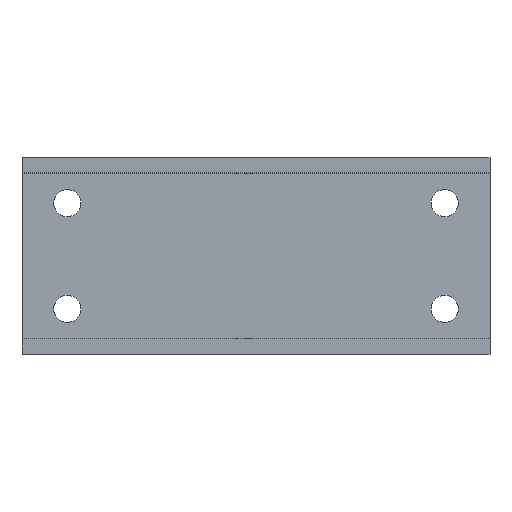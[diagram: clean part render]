
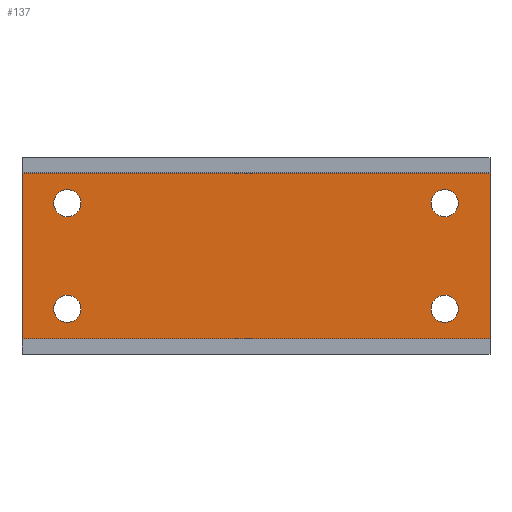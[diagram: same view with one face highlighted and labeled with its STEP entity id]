
A CAD part, top view. The second image highlights one B-rep face of the part: STEP entity #137.
In plain terms, the highlighted planar face has unit normal (0, 0, 1).
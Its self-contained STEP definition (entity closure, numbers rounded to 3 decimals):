
#21 = EDGE_CURVE('',#22,#24,#26,.T.);
#22 = VERTEX_POINT('',#23);
#23 = CARTESIAN_POINT('',(-31.,-11.,3.));
#24 = VERTEX_POINT('',#25);
#25 = CARTESIAN_POINT('',(-31.,11.,3.));
#26 = SURFACE_CURVE('',#27,(#31,#43),.PCURVE_S1.);
#27 = LINE('',#28,#29);
#28 = CARTESIAN_POINT('',(-31.,-13.,3.));
#29 = VECTOR('',#30,1.);
#30 = DIRECTION('',(0.,1.,0.));
#31 = PCURVE('',#32,#37);
#32 = PLANE('',#33);
#33 = AXIS2_PLACEMENT_3D('',#34,#35,#36);
#34 = CARTESIAN_POINT('',(-31.,-13.,0.));
#35 = DIRECTION('',(1.,0.,0.));
#36 = DIRECTION('',(0.,0.,1.));
#37 = DEFINITIONAL_REPRESENTATION('',(#38),#42);
#38 = LINE('',#39,#40);
#39 = CARTESIAN_POINT('',(3.,0.));
#40 = VECTOR('',#41,1.);
#41 = DIRECTION('',(0.,-1.));
#42 = ( GEOMETRIC_REPRESENTATION_CONTEXT(2) 
PARAMETRIC_REPRESENTATION_CONTEXT() REPRESENTATION_CONTEXT('2D SPACE',''
  ) );
#43 = PCURVE('',#44,#49);
#44 = PLANE('',#45);
#45 = AXIS2_PLACEMENT_3D('',#46,#47,#48);
#46 = CARTESIAN_POINT('',(-31.,-13.,3.));
#47 = DIRECTION('',(0.,0.,1.));
#48 = DIRECTION('',(1.,0.,0.));
#49 = DEFINITIONAL_REPRESENTATION('',(#50),#54);
#50 = LINE('',#51,#52);
#51 = CARTESIAN_POINT('',(0.,0.));
#52 = VECTOR('',#53,1.);
#53 = DIRECTION('',(0.,1.));
#54 = ( GEOMETRIC_REPRESENTATION_CONTEXT(2) 
PARAMETRIC_REPRESENTATION_CONTEXT() REPRESENTATION_CONTEXT('2D SPACE',''
  ) );
#137 = ADVANCED_FACE('',(#138,#223,#254,#285,#316),#44,.T.);
#138 = FACE_BOUND('',#139,.T.);
#139 = EDGE_LOOP('',(#140,#141,#169,#197));
#140 = ORIENTED_EDGE('',*,*,#21,.F.);
#141 = ORIENTED_EDGE('',*,*,#142,.T.);
#142 = EDGE_CURVE('',#22,#143,#145,.T.);
#143 = VERTEX_POINT('',#144);
#144 = CARTESIAN_POINT('',(31.,-11.,3.));
#145 = SURFACE_CURVE('',#146,(#150,#157),.PCURVE_S1.);
#146 = LINE('',#147,#148);
#147 = CARTESIAN_POINT('',(-31.,-11.,3.));
#148 = VECTOR('',#149,1.);
#149 = DIRECTION('',(1.,0.,0.));
#150 = PCURVE('',#44,#151);
#151 = DEFINITIONAL_REPRESENTATION('',(#152),#156);
#152 = LINE('',#153,#154);
#153 = CARTESIAN_POINT('',(0.,2.));
#154 = VECTOR('',#155,1.);
#155 = DIRECTION('',(1.,0.));
#156 = ( GEOMETRIC_REPRESENTATION_CONTEXT(2) 
PARAMETRIC_REPRESENTATION_CONTEXT() REPRESENTATION_CONTEXT('2D SPACE',''
  ) );
#157 = PCURVE('',#158,#163);
#158 = PLANE('',#159);
#159 = AXIS2_PLACEMENT_3D('',#160,#161,#162);
#160 = CARTESIAN_POINT('',(-31.,-11.,3.));
#161 = DIRECTION('',(0.,1.,0.));
#162 = DIRECTION('',(0.,0.,1.));
#163 = DEFINITIONAL_REPRESENTATION('',(#164),#168);
#164 = LINE('',#165,#166);
#165 = CARTESIAN_POINT('',(0.,0.));
#166 = VECTOR('',#167,1.);
#167 = DIRECTION('',(0.,1.));
#168 = ( GEOMETRIC_REPRESENTATION_CONTEXT(2) 
PARAMETRIC_REPRESENTATION_CONTEXT() REPRESENTATION_CONTEXT('2D SPACE',''
  ) );
#169 = ORIENTED_EDGE('',*,*,#170,.T.);
#170 = EDGE_CURVE('',#143,#171,#173,.T.);
#171 = VERTEX_POINT('',#172);
#172 = CARTESIAN_POINT('',(31.,11.,3.));
#173 = SURFACE_CURVE('',#174,(#178,#185),.PCURVE_S1.);
#174 = LINE('',#175,#176);
#175 = CARTESIAN_POINT('',(31.,-13.,3.));
#176 = VECTOR('',#177,1.);
#177 = DIRECTION('',(0.,1.,0.));
#178 = PCURVE('',#44,#179);
#179 = DEFINITIONAL_REPRESENTATION('',(#180),#184);
#180 = LINE('',#181,#182);
#181 = CARTESIAN_POINT('',(62.,0.));
#182 = VECTOR('',#183,1.);
#183 = DIRECTION('',(0.,1.));
#184 = ( GEOMETRIC_REPRESENTATION_CONTEXT(2) 
PARAMETRIC_REPRESENTATION_CONTEXT() REPRESENTATION_CONTEXT('2D SPACE',''
  ) );
#185 = PCURVE('',#186,#191);
#186 = PLANE('',#187);
#187 = AXIS2_PLACEMENT_3D('',#188,#189,#190);
#188 = CARTESIAN_POINT('',(31.,-13.,0.));
#189 = DIRECTION('',(1.,0.,0.));
#190 = DIRECTION('',(0.,0.,1.));
#191 = DEFINITIONAL_REPRESENTATION('',(#192),#196);
#192 = LINE('',#193,#194);
#193 = CARTESIAN_POINT('',(3.,0.));
#194 = VECTOR('',#195,1.);
#195 = DIRECTION('',(0.,-1.));
#196 = ( GEOMETRIC_REPRESENTATION_CONTEXT(2) 
PARAMETRIC_REPRESENTATION_CONTEXT() REPRESENTATION_CONTEXT('2D SPACE',''
  ) );
#197 = ORIENTED_EDGE('',*,*,#198,.F.);
#198 = EDGE_CURVE('',#24,#171,#199,.T.);
#199 = SURFACE_CURVE('',#200,(#204,#211),.PCURVE_S1.);
#200 = LINE('',#201,#202);
#201 = CARTESIAN_POINT('',(-31.,11.,3.));
#202 = VECTOR('',#203,1.);
#203 = DIRECTION('',(1.,0.,0.));
#204 = PCURVE('',#44,#205);
#205 = DEFINITIONAL_REPRESENTATION('',(#206),#210);
#206 = LINE('',#207,#208);
#207 = CARTESIAN_POINT('',(0.,24.));
#208 = VECTOR('',#209,1.);
#209 = DIRECTION('',(1.,0.));
#210 = ( GEOMETRIC_REPRESENTATION_CONTEXT(2) 
PARAMETRIC_REPRESENTATION_CONTEXT() REPRESENTATION_CONTEXT('2D SPACE',''
  ) );
#211 = PCURVE('',#212,#217);
#212 = PLANE('',#213);
#213 = AXIS2_PLACEMENT_3D('',#214,#215,#216);
#214 = CARTESIAN_POINT('',(-31.,11.,3.));
#215 = DIRECTION('',(0.,1.,0.));
#216 = DIRECTION('',(0.,0.,1.));
#217 = DEFINITIONAL_REPRESENTATION('',(#218),#222);
#218 = LINE('',#219,#220);
#219 = CARTESIAN_POINT('',(0.,0.));
#220 = VECTOR('',#221,1.);
#221 = DIRECTION('',(0.,1.));
#222 = ( GEOMETRIC_REPRESENTATION_CONTEXT(2) 
PARAMETRIC_REPRESENTATION_CONTEXT() REPRESENTATION_CONTEXT('2D SPACE',''
  ) );
#223 = FACE_BOUND('',#224,.T.);
#224 = EDGE_LOOP('',(#225));
#225 = ORIENTED_EDGE('',*,*,#226,.F.);
#226 = EDGE_CURVE('',#227,#227,#229,.T.);
#227 = VERTEX_POINT('',#228);
#228 = CARTESIAN_POINT('',(-23.2,-7.,3.));
#229 = SURFACE_CURVE('',#230,(#235,#242),.PCURVE_S1.);
#230 = CIRCLE('',#231,1.8);
#231 = AXIS2_PLACEMENT_3D('',#232,#233,#234);
#232 = CARTESIAN_POINT('',(-25.,-7.,3.));
#233 = DIRECTION('',(0.,0.,1.));
#234 = DIRECTION('',(1.,0.,-0.));
#235 = PCURVE('',#44,#236);
#236 = DEFINITIONAL_REPRESENTATION('',(#237),#241);
#237 = CIRCLE('',#238,1.8);
#238 = AXIS2_PLACEMENT_2D('',#239,#240);
#239 = CARTESIAN_POINT('',(6.,6.));
#240 = DIRECTION('',(1.,0.));
#241 = ( GEOMETRIC_REPRESENTATION_CONTEXT(2) 
PARAMETRIC_REPRESENTATION_CONTEXT() REPRESENTATION_CONTEXT('2D SPACE',''
  ) );
#242 = PCURVE('',#243,#248);
#243 = CYLINDRICAL_SURFACE('',#244,1.8);
#244 = AXIS2_PLACEMENT_3D('',#245,#246,#247);
#245 = CARTESIAN_POINT('',(-25.,-7.,-5.));
#246 = DIRECTION('',(0.,0.,1.));
#247 = DIRECTION('',(1.,0.,-0.));
#248 = DEFINITIONAL_REPRESENTATION('',(#249),#253);
#249 = LINE('',#250,#251);
#250 = CARTESIAN_POINT('',(0.,8.));
#251 = VECTOR('',#252,1.);
#252 = DIRECTION('',(1.,0.));
#253 = ( GEOMETRIC_REPRESENTATION_CONTEXT(2) 
PARAMETRIC_REPRESENTATION_CONTEXT() REPRESENTATION_CONTEXT('2D SPACE',''
  ) );
#254 = FACE_BOUND('',#255,.T.);
#255 = EDGE_LOOP('',(#256));
#256 = ORIENTED_EDGE('',*,*,#257,.F.);
#257 = EDGE_CURVE('',#258,#258,#260,.T.);
#258 = VERTEX_POINT('',#259);
#259 = CARTESIAN_POINT('',(26.8,-7.,3.));
#260 = SURFACE_CURVE('',#261,(#266,#273),.PCURVE_S1.);
#261 = CIRCLE('',#262,1.8);
#262 = AXIS2_PLACEMENT_3D('',#263,#264,#265);
#263 = CARTESIAN_POINT('',(25.,-7.,3.));
#264 = DIRECTION('',(0.,0.,1.));
#265 = DIRECTION('',(1.,0.,-0.));
#266 = PCURVE('',#44,#267);
#267 = DEFINITIONAL_REPRESENTATION('',(#268),#272);
#268 = CIRCLE('',#269,1.8);
#269 = AXIS2_PLACEMENT_2D('',#270,#271);
#270 = CARTESIAN_POINT('',(56.,6.));
#271 = DIRECTION('',(1.,0.));
#272 = ( GEOMETRIC_REPRESENTATION_CONTEXT(2) 
PARAMETRIC_REPRESENTATION_CONTEXT() REPRESENTATION_CONTEXT('2D SPACE',''
  ) );
#273 = PCURVE('',#274,#279);
#274 = CYLINDRICAL_SURFACE('',#275,1.8);
#275 = AXIS2_PLACEMENT_3D('',#276,#277,#278);
#276 = CARTESIAN_POINT('',(25.,-7.,-5.));
#277 = DIRECTION('',(0.,0.,1.));
#278 = DIRECTION('',(1.,0.,-0.));
#279 = DEFINITIONAL_REPRESENTATION('',(#280),#284);
#280 = LINE('',#281,#282);
#281 = CARTESIAN_POINT('',(0.,8.));
#282 = VECTOR('',#283,1.);
#283 = DIRECTION('',(1.,0.));
#284 = ( GEOMETRIC_REPRESENTATION_CONTEXT(2) 
PARAMETRIC_REPRESENTATION_CONTEXT() REPRESENTATION_CONTEXT('2D SPACE',''
  ) );
#285 = FACE_BOUND('',#286,.T.);
#286 = EDGE_LOOP('',(#287));
#287 = ORIENTED_EDGE('',*,*,#288,.F.);
#288 = EDGE_CURVE('',#289,#289,#291,.T.);
#289 = VERTEX_POINT('',#290);
#290 = CARTESIAN_POINT('',(-23.2,7.,3.));
#291 = SURFACE_CURVE('',#292,(#297,#304),.PCURVE_S1.);
#292 = CIRCLE('',#293,1.8);
#293 = AXIS2_PLACEMENT_3D('',#294,#295,#296);
#294 = CARTESIAN_POINT('',(-25.,7.,3.));
#295 = DIRECTION('',(0.,0.,1.));
#296 = DIRECTION('',(1.,0.,-0.));
#297 = PCURVE('',#44,#298);
#298 = DEFINITIONAL_REPRESENTATION('',(#299),#303);
#299 = CIRCLE('',#300,1.8);
#300 = AXIS2_PLACEMENT_2D('',#301,#302);
#301 = CARTESIAN_POINT('',(6.,20.));
#302 = DIRECTION('',(1.,0.));
#303 = ( GEOMETRIC_REPRESENTATION_CONTEXT(2) 
PARAMETRIC_REPRESENTATION_CONTEXT() REPRESENTATION_CONTEXT('2D SPACE',''
  ) );
#304 = PCURVE('',#305,#310);
#305 = CYLINDRICAL_SURFACE('',#306,1.8);
#306 = AXIS2_PLACEMENT_3D('',#307,#308,#309);
#307 = CARTESIAN_POINT('',(-25.,7.,-5.));
#308 = DIRECTION('',(0.,0.,1.));
#309 = DIRECTION('',(1.,0.,-0.));
#310 = DEFINITIONAL_REPRESENTATION('',(#311),#315);
#311 = LINE('',#312,#313);
#312 = CARTESIAN_POINT('',(0.,8.));
#313 = VECTOR('',#314,1.);
#314 = DIRECTION('',(1.,0.));
#315 = ( GEOMETRIC_REPRESENTATION_CONTEXT(2) 
PARAMETRIC_REPRESENTATION_CONTEXT() REPRESENTATION_CONTEXT('2D SPACE',''
  ) );
#316 = FACE_BOUND('',#317,.T.);
#317 = EDGE_LOOP('',(#318));
#318 = ORIENTED_EDGE('',*,*,#319,.F.);
#319 = EDGE_CURVE('',#320,#320,#322,.T.);
#320 = VERTEX_POINT('',#321);
#321 = CARTESIAN_POINT('',(26.8,7.,3.));
#322 = SURFACE_CURVE('',#323,(#328,#335),.PCURVE_S1.);
#323 = CIRCLE('',#324,1.8);
#324 = AXIS2_PLACEMENT_3D('',#325,#326,#327);
#325 = CARTESIAN_POINT('',(25.,7.,3.));
#326 = DIRECTION('',(0.,0.,1.));
#327 = DIRECTION('',(1.,0.,-0.));
#328 = PCURVE('',#44,#329);
#329 = DEFINITIONAL_REPRESENTATION('',(#330),#334);
#330 = CIRCLE('',#331,1.8);
#331 = AXIS2_PLACEMENT_2D('',#332,#333);
#332 = CARTESIAN_POINT('',(56.,20.));
#333 = DIRECTION('',(1.,0.));
#334 = ( GEOMETRIC_REPRESENTATION_CONTEXT(2) 
PARAMETRIC_REPRESENTATION_CONTEXT() REPRESENTATION_CONTEXT('2D SPACE',''
  ) );
#335 = PCURVE('',#336,#341);
#336 = CYLINDRICAL_SURFACE('',#337,1.8);
#337 = AXIS2_PLACEMENT_3D('',#338,#339,#340);
#338 = CARTESIAN_POINT('',(25.,7.,-5.));
#339 = DIRECTION('',(0.,0.,1.));
#340 = DIRECTION('',(1.,0.,-0.));
#341 = DEFINITIONAL_REPRESENTATION('',(#342),#346);
#342 = LINE('',#343,#344);
#343 = CARTESIAN_POINT('',(0.,8.));
#344 = VECTOR('',#345,1.);
#345 = DIRECTION('',(1.,0.));
#346 = ( GEOMETRIC_REPRESENTATION_CONTEXT(2) 
PARAMETRIC_REPRESENTATION_CONTEXT() REPRESENTATION_CONTEXT('2D SPACE',''
  ) );
